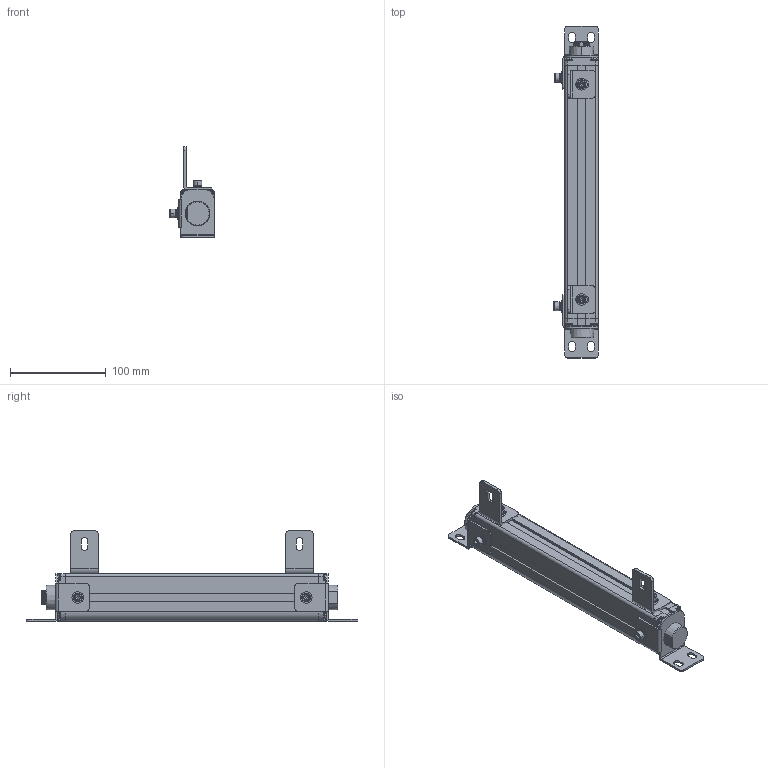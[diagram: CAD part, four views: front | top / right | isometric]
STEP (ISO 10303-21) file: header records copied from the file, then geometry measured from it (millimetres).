
FILE_DESCRIPTION((''),'2;1');
FILE_NAME('ESN--000_ASM','2021-08-10T21:11:24',('18720616900'),(''),'CREO PARAMETRIC BY PTC INC, 2019010','CREO PARAMETRIC BY PTC INC, 2019010','');
FILE_SCHEMA(('CONFIG_CONTROL_DESIGN'));
Length unit declared in the file: millimetre
Products named in the file (22): 00; 000; _0001; 4000; 4--0001; ESN_40001_ASM; L10001; M6-8--0001; M6-1--00; M6-1-00; M6-80001_ASM; L1--0001_ASM; _0002; 0005; ST-3-120001; H1--000; H1--0001_ASM; H1--0003_ASM; ESN--000_ASM
Assembly tree (34 placements, depth 4):
  ESN--000_ASM
    00
    000
    _0001
    000
    ESN_40001_ASM
      4000
      4--0001  x4
    L1--0001_ASM  x2
      L10001
      M6-80001_ASM
        M6-8--0001
        M6-1--00
        M6-1-00
        00
    _0002
    0005
    ST-3-120001  x8
    H1--0001_ASM
      H1--000
      M6-80001_ASM
        M6-8--0001
        M6-1--00
        M6-1-00
        00
    H1--0003_ASM
      H1--000
      M6-80001_ASM
        M6-8--0001
        M6-1--00
        M6-1-00
        00
Bounding box: 46.5 x 347 x 94.95 mm (x, y, z)
Volume: 460724 mm3; surface area: 124529.1 mm2
Topology: 39 solids, 39 shells, 1727 faces, 4555 edges, 2925 vertices
Faces by surface type: plane 541, cylinder 404, bspline 362, cone 291, torus 105, sphere 24
Entity records: 45714 total; most frequent: CARTESIAN_POINT 24222, ORIENTED_EDGE 4766, DIRECTION 3842, EDGE_CURVE 2383, VERTEX_POINT 1546, AXIS2_PLACEMENT_3D 1400, VECTOR 1042, LINE 1042
